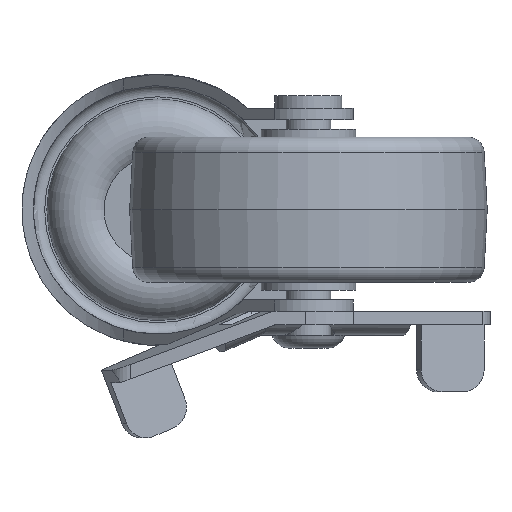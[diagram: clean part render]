
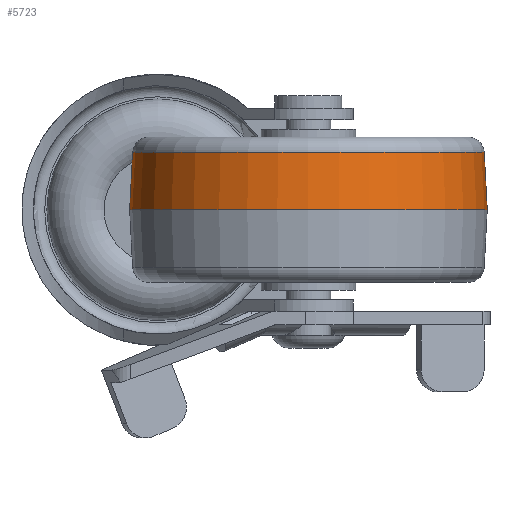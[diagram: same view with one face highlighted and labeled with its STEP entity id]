
A CAD part, front view. The second image highlights one B-rep face of the part: STEP entity #5723.
In plain terms, the highlighted conical face has half-angle 3 degrees and reference radius 24.973 mm.
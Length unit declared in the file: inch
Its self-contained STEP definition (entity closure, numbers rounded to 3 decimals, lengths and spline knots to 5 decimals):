
#1215=CONICAL_SURFACE('',#6384,0.98318,0.052);
#2199=ORIENTED_EDGE('',*,*,#3293,.T.);
#2200=ORIENTED_EDGE('',*,*,#3292,.F.);
#3292=EDGE_CURVE('',#3943,#3943,#4363,.T.);
#3293=EDGE_CURVE('',#3944,#3944,#4364,.T.);
#3943=VERTEX_POINT('',#9473);
#3944=VERTEX_POINT('',#9476);
#4363=CIRCLE('',#6383,0.98318);
#4364=CIRCLE('',#6385,1.);
#4738=EDGE_LOOP('',(#2199));
#4739=EDGE_LOOP('',(#2200));
#5182=FACE_BOUND('',#4738,.T.);
#5183=FACE_BOUND('',#4739,.T.);
#5723=ADVANCED_FACE('',(#5182,#5183),#1215,.T.);
#6383=AXIS2_PLACEMENT_3D('',#9472,#7741,#7742);
#6384=AXIS2_PLACEMENT_3D('',#9474,#7743,#7744);
#6385=AXIS2_PLACEMENT_3D('',#9475,#7745,#7746);
#7741=DIRECTION('',(0.,0.,-1.));
#7742=DIRECTION('',(-1.,0.,0.));
#7743=DIRECTION('',(0.,0.,1.));
#7744=DIRECTION('',(1.,0.,0.));
#7745=DIRECTION('',(0.,0.,-1.));
#7746=DIRECTION('',(-1.,0.,0.));
#9472=CARTESIAN_POINT('',(0.,0.,-0.32096));
#9473=CARTESIAN_POINT('',(-0.98318,0.,-0.32096));
#9474=CARTESIAN_POINT('',(0.,0.,-0.32096));
#9475=CARTESIAN_POINT('',(0.,0.,0.));
#9476=CARTESIAN_POINT('',(-1.,0.,0.));
